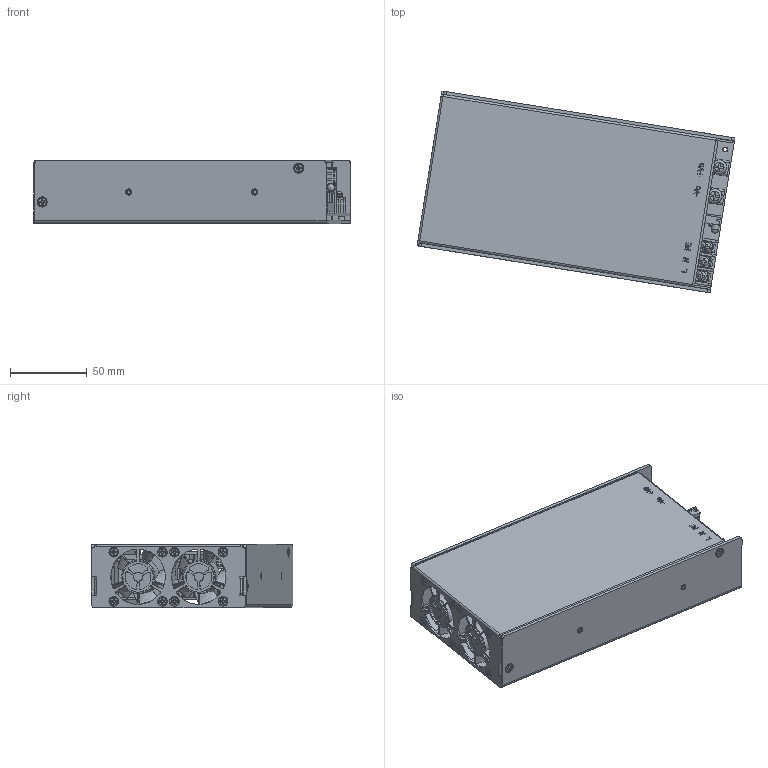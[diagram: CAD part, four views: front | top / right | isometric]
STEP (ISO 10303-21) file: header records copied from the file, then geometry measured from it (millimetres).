
FILE_DESCRIPTION(/* description */ (''),/* implementation_level */ '2;1');
FILE_NAME(/* name */ 'D:\Inventor\AQF1000\AQF1000.stp',/* time_stamp */ '2022-07-11T16:05:40+08:00',/* author */ ('peter'),/* organization */ (''),/* preprocessor_version */ 'ST-DEVELOPER v15.2',/* originating_system */ 'Autodesk Inventor 2014',/* authorisation */ '');
FILE_SCHEMA (('AUTOMOTIVE_DESIGN { 1 0 10303 214 3 1 1 }'));
Products named in the file (26): U  CASE; M3 x 5 mm; M3 - 2mm; TOP COVER; FAN - 4020; SCREW PH M5_12mm SELF TAPP; MYLAR - TOP COVER; PCB; PCB-50_M5; INLET - IN; SCREW CH_W  M5_10mm; HEATSINK A - BD1 Q1 Q2; HITSINK PIN; BD1; TO-220; HEATSINK - BD1 Q1 Q2 OK; 2 mm - CN4; LED; VR; Y - C; SCREW PH M3_04mm; AQF1000
Bounding box: 206.67 x 131.11 x 41 mm (x, y, z)
Volume: 279550.8 mm3; surface area: 248589.9 mm2
Topology: 49 solids, 49 shells, 2931 faces, 7453 edges, 4780 vertices
Faces by surface type: plane 1554, cylinder 644, bspline 445, torus 162, cone 125, sphere 1
Full cylindrical faces by diameter (mm): 0.45 x3, 0.5 x1, 0.6 x6, 1.5 x1, 1.6 x2, 2.459 x19, 3 x4, 3.2 x9, 3.5 x4, 3.85 x2, 4 x26, 4.134 x2, 4.2 x8, 4.7 x1, 4.8 x8, 5 x10, 5.8 x4, 6 x5, 6.099 x1, 6.291 x1, 9 x2, 10 x2, 10.059 x7, 12.405 x1, 20 x2, 27.71 x1
Entity records: 61152 total; most frequent: CARTESIAN_POINT 16179, ORIENTED_EDGE 9276, DIRECTION 8199, EDGE_CURVE 4638, VERTEX_POINT 3068, LINE 3003, VECTOR 3003, AXIS2_PLACEMENT_3D 2598
